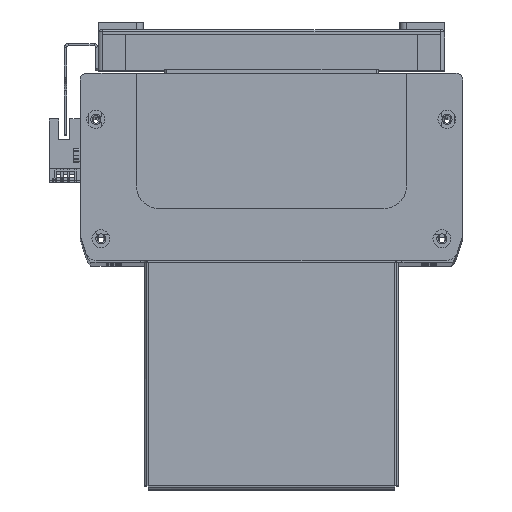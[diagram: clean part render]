
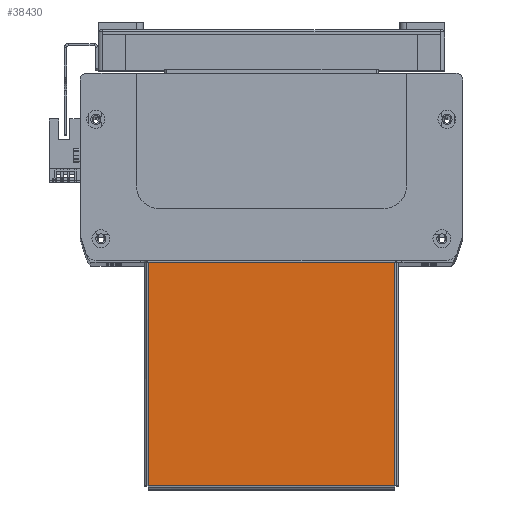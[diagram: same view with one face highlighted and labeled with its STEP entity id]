
A CAD part, top view. The second image highlights one B-rep face of the part: STEP entity #38430.
In plain terms, the highlighted planar face has unit normal (0, 0, 1).
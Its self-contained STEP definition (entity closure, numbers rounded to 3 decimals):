
#14878 = CARTESIAN_POINT ( 'NONE',  ( 54.763, -49.293, 0. ) ) ;
#14885 = CARTESIAN_POINT ( 'NONE',  ( -55.5, 50., 0. ) ) ;
#14889 = DIRECTION ( 'NONE',  ( -1., 0., 0. ) ) ;
#14922 = DIRECTION ( 'NONE',  ( 0., 1., 0. ) ) ;
#14990 = CARTESIAN_POINT ( 'NONE',  ( -54.763, 50., 0. ) ) ;
#14994 = DIRECTION ( 'NONE',  ( 0., -1., 0. ) ) ;
#15049 = CARTESIAN_POINT ( 'NONE',  ( -54.793, -49.263, 0. ) ) ;
#15067 = DIRECTION ( 'NONE',  ( 1., 0., 0. ) ) ;
#17368 = LINE ( 'NONE', #14878, #17372 ) ;
#17372 = VECTOR ( 'NONE', #14922, 1000. ) ;
#17377 = VECTOR ( 'NONE', #14889, 1000. ) ;
#17406 = LINE ( 'NONE', #14885, #17377 ) ;
#17410 = VECTOR ( 'NONE', #15067, 1000. ) ;
#17422 = LINE ( 'NONE', #15049, #17410 ) ;
#17459 = VECTOR ( 'NONE', #14994, 1000. ) ;
#17464 = LINE ( 'NONE', #14990, #17459 ) ;
#20693 = ORIENTED_EDGE ( 'NONE', *, *, #48312, .T. ) ;
#20695 = ORIENTED_EDGE ( 'NONE', *, *, #48319, .T. ) ;
#20721 = ORIENTED_EDGE ( 'NONE', *, *, #48348, .T. ) ;
#20775 = ORIENTED_EDGE ( 'NONE', *, *, #48334, .T. ) ;
#27901 = AXIS2_PLACEMENT_3D ( 'NONE', #32354, #32340, #32349 ) ;
#29624 = VERTEX_POINT ( 'NONE', #50273 ) ;
#29651 = VERTEX_POINT ( 'NONE', #50268 ) ;
#29675 = VERTEX_POINT ( 'NONE', #50303 ) ;
#29679 = VERTEX_POINT ( 'NONE', #50305 ) ;
#32340 = DIRECTION ( 'NONE',  ( 0., 0., 1. ) ) ;
#32349 = DIRECTION ( 'NONE',  ( 1., 0., 0. ) ) ;
#32351 = PLANE ( 'NONE',  #27901 ) ;
#32354 = CARTESIAN_POINT ( 'NONE',  ( 0., 0., 0. ) ) ;
#33306 = FACE_OUTER_BOUND ( 'NONE', #41780, .T. ) ;
#38430 = ADVANCED_FACE ( 'NONE', ( #33306 ), #32351, .T. ) ;
#41780 = EDGE_LOOP ( 'NONE', ( #20775, #20721, #20693, #20695 ) ) ;
#48312 = EDGE_CURVE ( 'NONE', #29651, #29624, #17368, .T. ) ;
#48319 = EDGE_CURVE ( 'NONE', #29624, #29679, #17406, .T. ) ;
#48334 = EDGE_CURVE ( 'NONE', #29679, #29675, #17464, .T. ) ;
#48348 = EDGE_CURVE ( 'NONE', #29675, #29651, #17422, .T. ) ;
#50268 = CARTESIAN_POINT ( 'NONE',  ( 54.763, -49.263, 0. ) ) ;
#50273 = CARTESIAN_POINT ( 'NONE',  ( 54.763, 50., 0. ) ) ;
#50303 = CARTESIAN_POINT ( 'NONE',  ( -54.763, -49.263, 0. ) ) ;
#50305 = CARTESIAN_POINT ( 'NONE',  ( -54.763, 50., 0. ) ) ;
